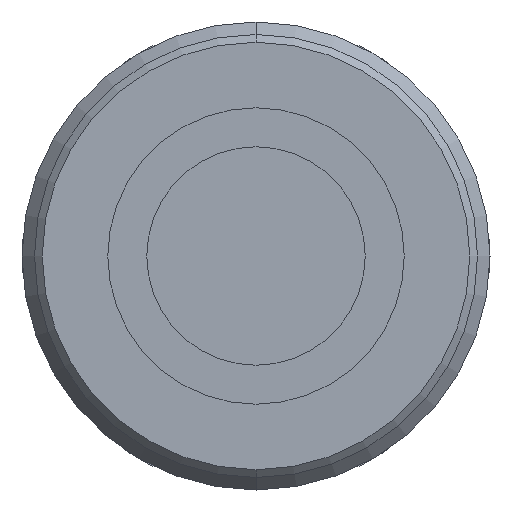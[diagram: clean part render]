
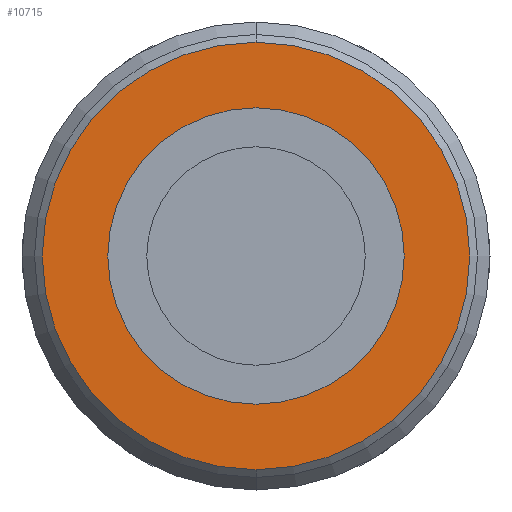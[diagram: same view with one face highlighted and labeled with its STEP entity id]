
A CAD part, front view. The second image highlights one B-rep face of the part: STEP entity #10715.
In plain terms, the highlighted planar face has unit normal (0, -1, 0).
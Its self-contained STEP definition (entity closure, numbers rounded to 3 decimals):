
#143 = DIRECTION ( 'NONE',  ( 0., 1., 0. ) ) ;
#158 = CIRCLE ( 'NONE', #11878, 13.7 ) ;
#181 = AXIS2_PLACEMENT_3D ( 'NONE', #11156, #143, #6522 ) ;
#254 = ORIENTED_EDGE ( 'NONE', *, *, #1533, .F. ) ;
#288 = CIRCLE ( 'NONE', #10408, 9.5 ) ;
#546 = EDGE_LOOP ( 'NONE', ( #254, #9601 ) ) ;
#736 = DIRECTION ( 'NONE',  ( 0., -1., 0. ) ) ;
#803 = VERTEX_POINT ( 'NONE', #9957 ) ;
#956 = CARTESIAN_POINT ( 'NONE',  ( 0., -28.399, 13.7 ) ) ;
#1065 = EDGE_CURVE ( 'NONE', #9707, #3089, #158, .T. ) ;
#1533 = EDGE_CURVE ( 'NONE', #7498, #803, #288, .T. ) ;
#1835 = DIRECTION ( 'NONE',  ( 0., -1., 0. ) ) ;
#2514 = CARTESIAN_POINT ( 'NONE',  ( 0., -28.399, 0. ) ) ;
#2814 = CIRCLE ( 'NONE', #2939, 9.5 ) ;
#2939 = AXIS2_PLACEMENT_3D ( 'NONE', #7321, #1835, #8259 ) ;
#3089 = VERTEX_POINT ( 'NONE', #956 ) ;
#3420 = EDGE_LOOP ( 'NONE', ( #10350, #8587 ) ) ;
#3448 = DIRECTION ( 'NONE',  ( 0., 0., -1. ) ) ;
#4686 = PLANE ( 'NONE',  #181 ) ;
#4790 = DIRECTION ( 'NONE',  ( 0., 0., -1. ) ) ;
#5493 = CARTESIAN_POINT ( 'NONE',  ( 0., -28.399, -13.7 ) ) ;
#5668 = CARTESIAN_POINT ( 'NONE',  ( 0., -28.399, 0. ) ) ;
#5712 = DIRECTION ( 'NONE',  ( 0., -1., 0. ) ) ;
#6131 = EDGE_CURVE ( 'NONE', #803, #7498, #2814, .T. ) ;
#6211 = CARTESIAN_POINT ( 'NONE',  ( 0., -28.399, 0. ) ) ;
#6444 = CIRCLE ( 'NONE', #9782, 13.7 ) ;
#6522 = DIRECTION ( 'NONE',  ( 0., 0., 1. ) ) ;
#7135 = DIRECTION ( 'NONE',  ( 0., 0., -1. ) ) ;
#7321 = CARTESIAN_POINT ( 'NONE',  ( 0., -28.399, 0. ) ) ;
#7498 = VERTEX_POINT ( 'NONE', #11436 ) ;
#8259 = DIRECTION ( 'NONE',  ( 0., 0., -1. ) ) ;
#8587 = ORIENTED_EDGE ( 'NONE', *, *, #1065, .T. ) ;
#8940 = DIRECTION ( 'NONE',  ( 0., -1., 0. ) ) ;
#9601 = ORIENTED_EDGE ( 'NONE', *, *, #6131, .F. ) ;
#9707 = VERTEX_POINT ( 'NONE', #5493 ) ;
#9782 = AXIS2_PLACEMENT_3D ( 'NONE', #6211, #736, #7135 ) ;
#9957 = CARTESIAN_POINT ( 'NONE',  ( 0., -28.399, 9.5 ) ) ;
#10350 = ORIENTED_EDGE ( 'NONE', *, *, #11785, .T. ) ;
#10408 = AXIS2_PLACEMENT_3D ( 'NONE', #2514, #8940, #3448 ) ;
#10715 = ADVANCED_FACE ( 'NONE', ( #10839, #11404 ), #4686, .F. ) ;
#10839 = FACE_BOUND ( 'NONE', #546, .T. ) ;
#11156 = CARTESIAN_POINT ( 'NONE',  ( -13.7, -28.399, 0. ) ) ;
#11404 = FACE_OUTER_BOUND ( 'NONE', #3420, .T. ) ;
#11436 = CARTESIAN_POINT ( 'NONE',  ( 0., -28.399, -9.5 ) ) ;
#11785 = EDGE_CURVE ( 'NONE', #3089, #9707, #6444, .T. ) ;
#11878 = AXIS2_PLACEMENT_3D ( 'NONE', #5668, #5712, #4790 ) ;
